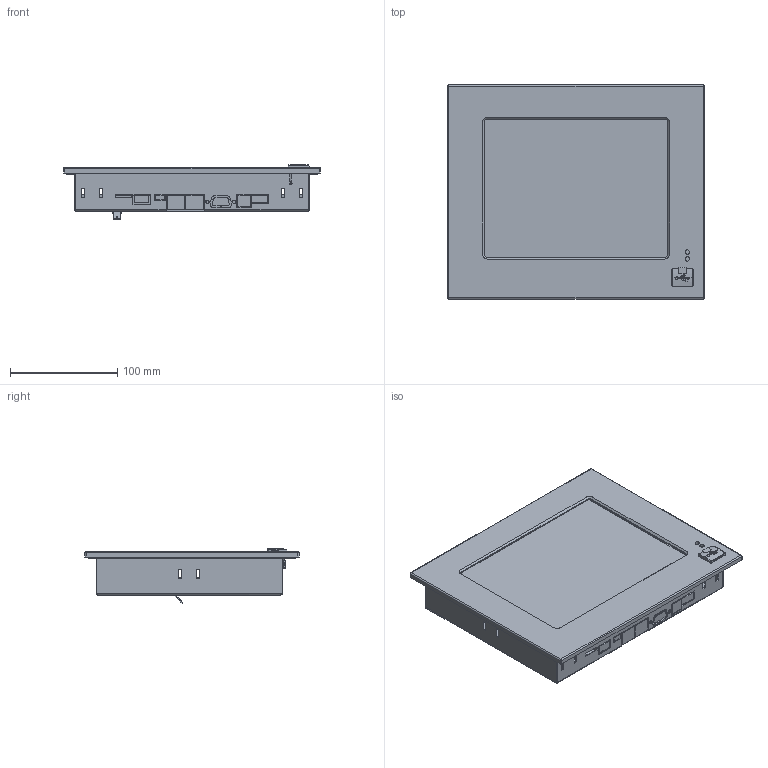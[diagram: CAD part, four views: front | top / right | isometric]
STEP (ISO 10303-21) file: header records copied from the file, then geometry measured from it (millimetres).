
FILE_DESCRIPTION (( 'STEP AP214' ), '1' );
FILE_NAME ('ETV0855 support.STEP', '2016-06-01T07:49:56', ( 'SIGMATEK GmbH & Co KG' ), ( 'SIGMATEK GmbH & Co KG' ), 'SwSTEP 2.0', 'SolidWorks 2015', '' );
FILE_SCHEMA (( 'AUTOMOTIVE_DESIGN' ));
Length unit declared in the file: millimetre
Products named in the file (8): Gehäuse ETV08xx support; 7227775015 DMC_TP-3513S1F0_ohne Touchabgang; Erdungsaufkleber; Steckzunge 6,3 m.B. M3 DIN46244 St-verzinnt; ETV0855 support; ETV08xx Front support; 91202_20110330 support; Abdeckung USB 9_4_4 Griffmulde oben_mit Stiftdichtung
Assembly tree (7 placements, depth 2):
  ETV0855 support
    Steckzunge 6,3 m.B. M3 DIN46244 St-verzinnt
    Erdungsaufkleber
    7227775015 DMC_TP-3513S1F0_ohne Touchabgang
    Gehäuse ETV08xx support
    Abdeckung USB 9_4_4 Griffmulde oben_mit Stiftdichtung
    91202_20110330 support
    ETV08xx Front support
Bounding box: 240 x 200 x 51.3 mm (x, y, z)
Volume: 287588.4 mm3; surface area: 299518.9 mm2
Topology: 10 solids, 10 shells, 1219 faces, 3181 edges, 2044 vertices
Faces by surface type: plane 553, cylinder 538, bspline 59, cone 28, sphere 22, torus 19
Entity records: 46176 total; most frequent: CARTESIAN_POINT 9666, ORIENTED_EDGE 6354, DIRECTION 6348, EDGE_CURVE 3177, AXIS2_PLACEMENT_3D 2247, VERTEX_POINT 2044, VECTOR 1854, LINE 1854
